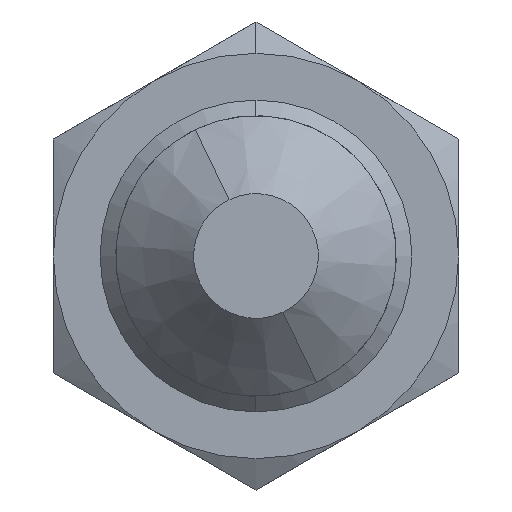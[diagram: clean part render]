
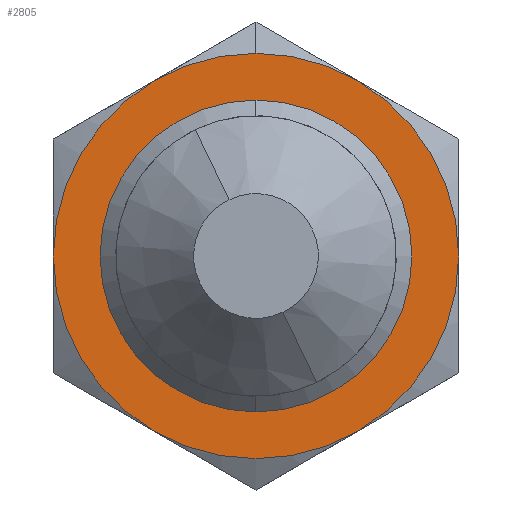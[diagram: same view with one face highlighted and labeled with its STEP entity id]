
A CAD part, left-side view. The second image highlights one B-rep face of the part: STEP entity #2805.
In plain terms, the highlighted planar face has unit normal (-1, 0, 0) as drawn and (0, 0, -1) by its records, which use the part's own axes.
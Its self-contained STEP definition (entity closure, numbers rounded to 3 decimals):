
#163 = EDGE_CURVE ( 'NONE', #177, #191, #2313, .T. ) ;
#177 = VERTEX_POINT ( 'NONE', #2351 ) ;
#191 = VERTEX_POINT ( 'NONE', #2327 ) ;
#1008 = EDGE_CURVE ( 'NONE', #11330, #177, #3825, .T. ) ;
#1011 = ORIENTED_EDGE ( 'NONE', *, *, #163, .F. ) ;
#1015 = ORIENTED_EDGE ( 'NONE', *, *, #1008, .F. ) ;
#1020 = EDGE_CURVE ( 'NONE', #191, #1809, #3818, .T. ) ;
#1025 = ORIENTED_EDGE ( 'NONE', *, *, #1020, .F. ) ;
#1342 = EDGE_LOOP ( 'NONE', ( #7563, #7074 ) ) ;
#1809 = VERTEX_POINT ( 'NONE', #5237 ) ;
#1894 = VERTEX_POINT ( 'NONE', #5433 ) ;
#2306 = DIRECTION ( 'NONE',  ( 1., 0., 0. ) ) ;
#2307 = DIRECTION ( 'NONE',  ( 0., 0., 1. ) ) ;
#2308 = CARTESIAN_POINT ( 'NONE',  ( 0., 0., -3.5 ) ) ;
#2309 = AXIS2_PLACEMENT_3D ( 'NONE', #2308, #2307, #2306 ) ;
#2313 = CIRCLE ( 'NONE', #2309, 13. ) ;
#2327 = CARTESIAN_POINT ( 'NONE',  ( -13., 0., -3.5 ) ) ;
#2351 = CARTESIAN_POINT ( 'NONE',  ( -11.258, 6.5, -3.5 ) ) ;
#2805 = ADVANCED_FACE ( 'NONE', ( #5742, #5741 ), #5740, .F. ) ;
#3809 = DIRECTION ( 'NONE',  ( 1., 0., 0. ) ) ;
#3810 = DIRECTION ( 'NONE',  ( 0., 0., 1. ) ) ;
#3811 = CARTESIAN_POINT ( 'NONE',  ( 0., 0., -3.5 ) ) ;
#3812 = AXIS2_PLACEMENT_3D ( 'NONE', #3811, #3810, #3809 ) ;
#3818 = CIRCLE ( 'NONE', #3812, 13. ) ;
#3821 = DIRECTION ( 'NONE',  ( 1., 0., 0. ) ) ;
#3822 = DIRECTION ( 'NONE',  ( 0., 0., 1. ) ) ;
#3823 = CARTESIAN_POINT ( 'NONE',  ( 0., 0., -3.5 ) ) ;
#3824 = AXIS2_PLACEMENT_3D ( 'NONE', #3823, #3822, #3821 ) ;
#3825 = CIRCLE ( 'NONE', #3824, 13. ) ;
#5237 = CARTESIAN_POINT ( 'NONE',  ( -11.258, -6.5, -3.5 ) ) ;
#5433 = CARTESIAN_POINT ( 'NONE',  ( 0., -13., -3.5 ) ) ;
#5703 = VERTEX_POINT ( 'NONE', #5899 ) ;
#5735 = DIRECTION ( 'NONE',  ( 1., 0., 0. ) ) ;
#5736 = DIRECTION ( 'NONE',  ( 0., 0., 1. ) ) ;
#5738 = CARTESIAN_POINT ( 'NONE',  ( 7.506, 13., -3.5 ) ) ;
#5739 = AXIS2_PLACEMENT_3D ( 'NONE', #5738, #5736, #5735 ) ;
#5740 = PLANE ( 'NONE',  #5739 ) ;
#5741 = FACE_OUTER_BOUND ( 'NONE', #6591, .T. ) ;
#5742 = FACE_BOUND ( 'NONE', #1342, .T. ) ;
#5864 = EDGE_CURVE ( 'NONE', #1809, #1894, #5940, .T. ) ;
#5899 = CARTESIAN_POINT ( 'NONE',  ( 11.258, -6.5, -3.5 ) ) ;
#5935 = DIRECTION ( 'NONE',  ( 1., 0., 0. ) ) ;
#5936 = DIRECTION ( 'NONE',  ( 0., 0., 1. ) ) ;
#5937 = CARTESIAN_POINT ( 'NONE',  ( 0., 0., -3.5 ) ) ;
#5938 = AXIS2_PLACEMENT_3D ( 'NONE', #5937, #5936, #5935 ) ;
#5940 = CIRCLE ( 'NONE', #5938, 13. ) ;
#5954 = DIRECTION ( 'NONE',  ( 1., 0., 0. ) ) ;
#5955 = DIRECTION ( 'NONE',  ( 0., 0., 1. ) ) ;
#5956 = CARTESIAN_POINT ( 'NONE',  ( 0., 0., -3.5 ) ) ;
#5957 = AXIS2_PLACEMENT_3D ( 'NONE', #5956, #5955, #5954 ) ;
#5958 = CIRCLE ( 'NONE', #5957, 13. ) ;
#5959 = DIRECTION ( 'NONE',  ( 1., 0., 0. ) ) ;
#5960 = DIRECTION ( 'NONE',  ( 0., 0., 1. ) ) ;
#5961 = CARTESIAN_POINT ( 'NONE',  ( 0., 0., -3.5 ) ) ;
#5962 = AXIS2_PLACEMENT_3D ( 'NONE', #5961, #5960, #5959 ) ;
#5963 = CIRCLE ( 'NONE', #5962, 13. ) ;
#5964 = DIRECTION ( 'NONE',  ( 1., 0., 0. ) ) ;
#5965 = DIRECTION ( 'NONE',  ( 0., 0., 1. ) ) ;
#5966 = CARTESIAN_POINT ( 'NONE',  ( 0., 0., -3.5 ) ) ;
#5967 = AXIS2_PLACEMENT_3D ( 'NONE', #5966, #5965, #5964 ) ;
#5968 = CIRCLE ( 'NONE', #5967, 10. ) ;
#5970 = DIRECTION ( 'NONE',  ( 1., 0., 0. ) ) ;
#5971 = DIRECTION ( 'NONE',  ( 0., 0., 1. ) ) ;
#5973 = CARTESIAN_POINT ( 'NONE',  ( 0., 0., -3.5 ) ) ;
#5974 = AXIS2_PLACEMENT_3D ( 'NONE', #5973, #5971, #5970 ) ;
#5978 = CIRCLE ( 'NONE', #5974, 13. ) ;
#6106 = ORIENTED_EDGE ( 'NONE', *, *, #5864, .F. ) ;
#6253 = CARTESIAN_POINT ( 'NONE',  ( 10., 0., -3.5 ) ) ;
#6254 = DIRECTION ( 'NONE',  ( 1., 0., 0. ) ) ;
#6255 = DIRECTION ( 'NONE',  ( 0., 0., 1. ) ) ;
#6257 = CARTESIAN_POINT ( 'NONE',  ( 0., 0., -3.5 ) ) ;
#6258 = AXIS2_PLACEMENT_3D ( 'NONE', #6257, #6255, #6254 ) ;
#6259 = CIRCLE ( 'NONE', #6258, 10. ) ;
#6260 = CARTESIAN_POINT ( 'NONE',  ( -10., 0., -3.5 ) ) ;
#6309 = CARTESIAN_POINT ( 'NONE',  ( 11.258, 6.5, -3.5 ) ) ;
#6385 = CARTESIAN_POINT ( 'NONE',  ( 0., 13., -3.5 ) ) ;
#6591 = EDGE_LOOP ( 'NONE', ( #6757, #6816, #6603, #6106, #1025, #1011, #1015 ) ) ;
#6603 = ORIENTED_EDGE ( 'NONE', *, *, #6807, .F. ) ;
#6757 = ORIENTED_EDGE ( 'NONE', *, *, #6768, .F. ) ;
#6768 = EDGE_CURVE ( 'NONE', #11294, #11330, #5978, .T. ) ;
#6782 = EDGE_CURVE ( 'NONE', #11262, #11259, #5968, .T. ) ;
#6787 = EDGE_CURVE ( 'NONE', #5703, #11294, #5963, .T. ) ;
#6807 = EDGE_CURVE ( 'NONE', #1894, #5703, #5958, .T. ) ;
#6816 = ORIENTED_EDGE ( 'NONE', *, *, #6787, .F. ) ;
#7074 = ORIENTED_EDGE ( 'NONE', *, *, #6782, .T. ) ;
#7563 = ORIENTED_EDGE ( 'NONE', *, *, #11260, .T. ) ;
#11259 = VERTEX_POINT ( 'NONE', #6260 ) ;
#11260 = EDGE_CURVE ( 'NONE', #11259, #11262, #6259, .T. ) ;
#11262 = VERTEX_POINT ( 'NONE', #6253 ) ;
#11294 = VERTEX_POINT ( 'NONE', #6309 ) ;
#11330 = VERTEX_POINT ( 'NONE', #6385 ) ;
